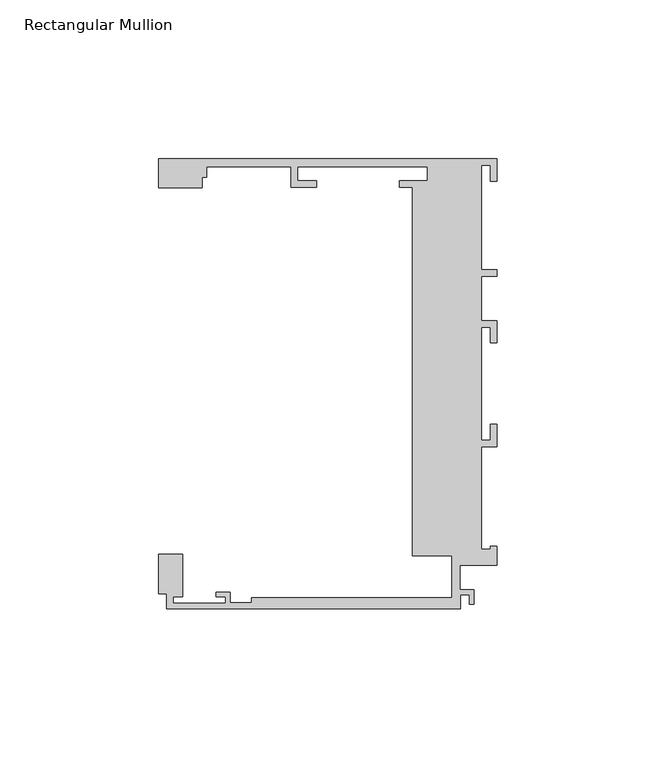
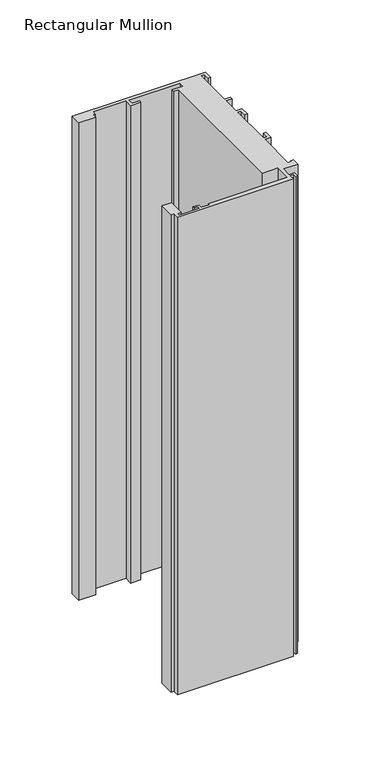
"""IFC4 building model written with IfcOpenShell, lengths in millimetres: member geometry, Rectangular Mullion : Danpal_K12_End-Mullion_B2."""

from ifc_helpers import new_model, si_unit, frame, origin, place, context, project, spatial, polyline, outline, extrude, source, transform, mapped, element, save


def rectangular_mullion_7d930778(model_context):
    return source(origin(), model_context, "Body", "SweptSolid", [
        extrude(outline(polyline([(-26.6209612, 1.9446289), (-26.6209612, 117.8676658), (-30.6, 117.8676658), (-30.6, 119.8676658), (-21.835, 119.8676658), (-21.835, 124.2676658), (-62.7350275, 124.2676658), (-62.7350275, 119.8676658), (-56.7350275, 119.8676658), (-56.7350275, 117.8676658), (-64.7350275, 117.8676658), (-64.7350275, 124.2676658), (-91.2900275, 124.2676658), (-91.2900275, 121.0676175), (-92.8228167, 121.0676175), (-92.8228167, 117.6986749), (-106.4117426, 117.6986749), (-106.4117426, 126.7676657), (0.0, 126.7676657), (0.0, 119.7676657), (-2.0, 119.7676657), (-2.0, 124.7676657), (-4.8, 124.7676657), (-4.8, 91.8676485), (0.0, 91.8676485), (0.0, 89.8676485), (-4.8, 89.8676485), (-4.8, 75.867683), (0.0, 75.867683), (0.0, 68.8676657), (-2.0, 68.8676657), (-2.0, 73.8676657), (-4.8, 73.8676657), (-4.8, 38.2443486), (-2.0, 38.2443486), (-2.0, 43.2443486), (0.0, 43.2443486), (0.0, 36.2443486), (-4.8, 36.2443486), (-4.8, 3.9448486), (-2.0, 3.9448486), (-2.0, 4.9448486), (0.0, 4.9448486), (0.0, -1.0551514), (-11.6055875, -1.0551514), (-11.6055875, -8.8006425), (-7.1518595, -8.8006425), (-7.1518595, -13.3051514), (-8.6518595, -13.3051514), (-8.6518595, -10.3006425), (-11.4019537, -10.3006425), (-11.4019537, -14.8051514), (-103.8999976, -14.8051514), (-103.8999976, -10.065304), (-106.4117426, -10.065304), (-106.4117426, 2.316674), (-98.8999976, 2.316674), (-98.8999976, -11.0051513), (-101.8999976, -11.0051513), (-101.8999976, -13.0051512), (-85.3999976, -13.0051512), (-85.3999976, -11.0051513), (-88.3999976, -11.0051513), (-88.3999976, -9.5051512), (-83.8999976, -9.5051512), (-83.8999976, -12.8051513), (-77.1531178, -12.8051513), (-77.1531178, -11.3051512), (-14.1055875, -11.3051512), (-14.1055875, 1.9446289), (-26.6209612, 1.9446289)])), frame((0.0, 0.0, -402.970611), z_axis=(0.0, 0.0, 1.0), x_axis=(1.0, 0.0, 0.0)), (0.0, 0.0, 1.0), 402.970611),
    ])


if __name__ == "__main__":
    model = new_model("IFC4")
    model_context = context("Model", 3, world=origin())
    ifc_project = project(units=[si_unit("LENGTHUNIT", "METRE", prefix="MILLI")], contexts=[model_context])
    site = spatial("IfcSite", under=ifc_project)
    building = spatial("IfcBuilding", under=site)
    placement = place(None, origin())
    rectangular_mullion_shape = rectangular_mullion_7d930778(model_context)
    element("IfcMember", 1, ObjectType="Rectangular Mullion : Danpal_K12_End-Mullion_B2", at=placement, inside=building, context=model_context, shape_type="MappedRepresentation", body=[
        mapped(rectangular_mullion_shape, transform((0.0, 0.0, 0.0), x_axis=(1.0, 0.0, 0.0), y_axis=(0.0, 1.0, 0.0), z_axis=(0.0, 0.0, 1.0))),
    ])
    save(model, "model.ifc")
